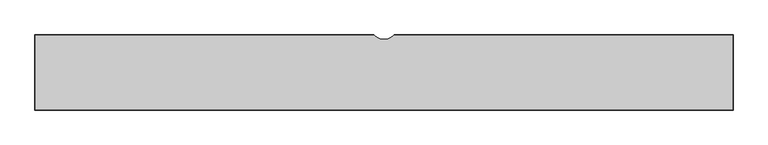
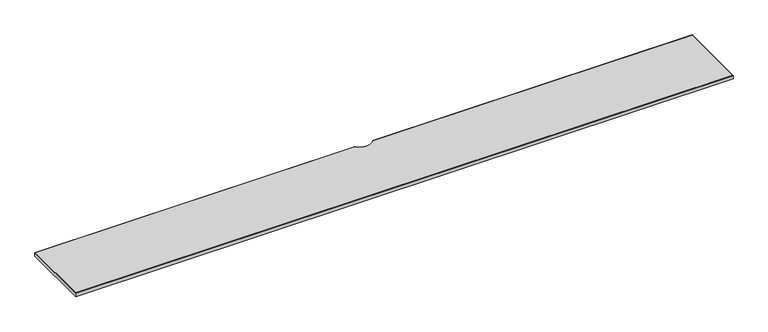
"""IFC4 building model written with IfcOpenShell, lengths in millimetres: furniture geometry, Steelcase - Universal Systems Worksurface - Straight - 0.5'' Cord Drop - 3mm Edge : 23 1/2'' x 96'' special."""

from ifc_helpers import new_model, si_unit, point, frame, frame_2d, origin, place, context, project, spatial, polyline, circle_curve, trimmed, segment, composite_curve, outline, extrude, source, transform, mapped, element, save


def furniture_c3c61172(model_context):
    return source(origin(), model_context, "Body", "SweptSolid", [
        extrude(outline(composite_curve([segment(trimmed(circle_curve(frame_2d((2633.6963269, -28.1434663)), 15.4667908), [point((2632.8459249, -12.7000717))], [point((2644.4125909, -16.9907399))], False, "CARTESIAN"), True, "CONTINUOUS"), segment(trimmed(circle_curve(frame_2d((2717.8, 59.3856629)), 105.9200959), [point((2644.4125909, -16.9907399))], [point((2791.1874091, -16.9907399))], True, "CARTESIAN"), True, "CONTINUOUS"), segment(trimmed(circle_curve(frame_2d((2801.9036731, -28.1434663)), 15.4667908), [point((2791.1874091, -16.9907399))], [point((2802.7540751, -12.7000717))], False, "CARTESIAN"), True, "CONTINUOUS"), segment(polyline([(2802.7540751, -12.7000717), (5434.583783, -12.7000717), (5434.583783, -593.9027992), (1.016217, -593.9027992), (1.016217, -12.7000717), (2632.8459249, -12.7000717)]), True, "CONTINUOUS")], self_intersect=False)), frame((0.0, 0.0, 698.5), z_axis=(0.0, 0.0, 1.0), x_axis=(1.0, 0.0, 0.0)), (0.0, 0.0, 1.0), 30.0990349),
        extrude(outline(composite_curve([segment(trimmed(circle_curve(frame_2d((2633.6728301, -28.2855543)), 16.6015543), [point((2633.6728301, -11.684))], [point((2645.1672897, -16.3068647))], False, "CARTESIAN"), True, "CONTINUOUS"), segment(trimmed(circle_curve(frame_2d((2717.8, 59.3856629)), 104.9040959), [point((2645.1672897, -16.3068647))], [point((2790.4327103, -16.3068647))], True, "CARTESIAN"), True, "CONTINUOUS"), segment(trimmed(circle_curve(frame_2d((2801.9271699, -28.2855543)), 16.6015543), [point((2790.4327103, -16.3068647))], [point((2801.9271699, -11.684))], False, "CARTESIAN"), True, "CONTINUOUS"), segment(polyline([(2801.9271699, -11.684), (5435.6, -11.684), (5435.6, -596.9), (0.0, -596.9), (0.0, -11.684), (2633.6728301, -11.684)]), True, "CONTINUOUS")], self_intersect=False), holes=[composite_curve([segment(polyline([(2632.8459249, -12.7000717), (1.016217, -12.7000717), (1.016217, -593.9027992), (5434.583783, -593.9027992), (5434.583783, -12.7000717), (2802.7540751, -12.7000717)]), True, "CONTINUOUS"), segment(trimmed(circle_curve(frame_2d((2801.9036731, -28.1434663)), 15.4667908), [point((2802.7540751, -12.7000717))], [point((2791.1874091, -16.9907399))], True, "CARTESIAN"), True, "CONTINUOUS"), segment(trimmed(circle_curve(frame_2d((2717.8, 59.3856629)), 105.9200959), [point((2791.1874091, -16.9907399))], [point((2644.4125909, -16.9907399))], False, "CARTESIAN"), True, "CONTINUOUS"), segment(trimmed(circle_curve(frame_2d((2633.6963269, -28.1434663)), 15.4667908), [point((2644.4125909, -16.9907399))], [point((2632.8459249, -12.7000717))], True, "CARTESIAN"), True, "CONTINUOUS")], self_intersect=False)]), frame((0.0, 0.0, 698.5), z_axis=(0.0, 0.0, 1.0), x_axis=(1.0, 0.0, 0.0)), (0.0, 0.0, 1.0), 30.0990349),
    ])


if __name__ == "__main__":
    model = new_model("IFC4")
    model_context = context("Model", 3, world=origin())
    ifc_project = project(units=[si_unit("LENGTHUNIT", "METRE", prefix="MILLI")], contexts=[model_context])
    site = spatial("IfcSite", under=ifc_project)
    building = spatial("IfcBuilding", under=site)
    placement = place(None, origin())
    furniture_shape = furniture_c3c61172(model_context)
    element("IfcFurniture", 1, ObjectType="Steelcase - Universal Systems Worksurface - Straight - 0.5'' Cord Drop - 3mm Edge : 23 1/2'' x 96'' special", at=placement, inside=building, context=model_context, shape_type="MappedRepresentation", body=[
        mapped(furniture_shape, transform((0.0, 0.0, 0.0), x_axis=(1.0, 0.0, 0.0), y_axis=(0.0, 1.0, 0.0), z_axis=(0.0, 0.0, 1.0))),
    ])
    save(model, "model.ifc")
